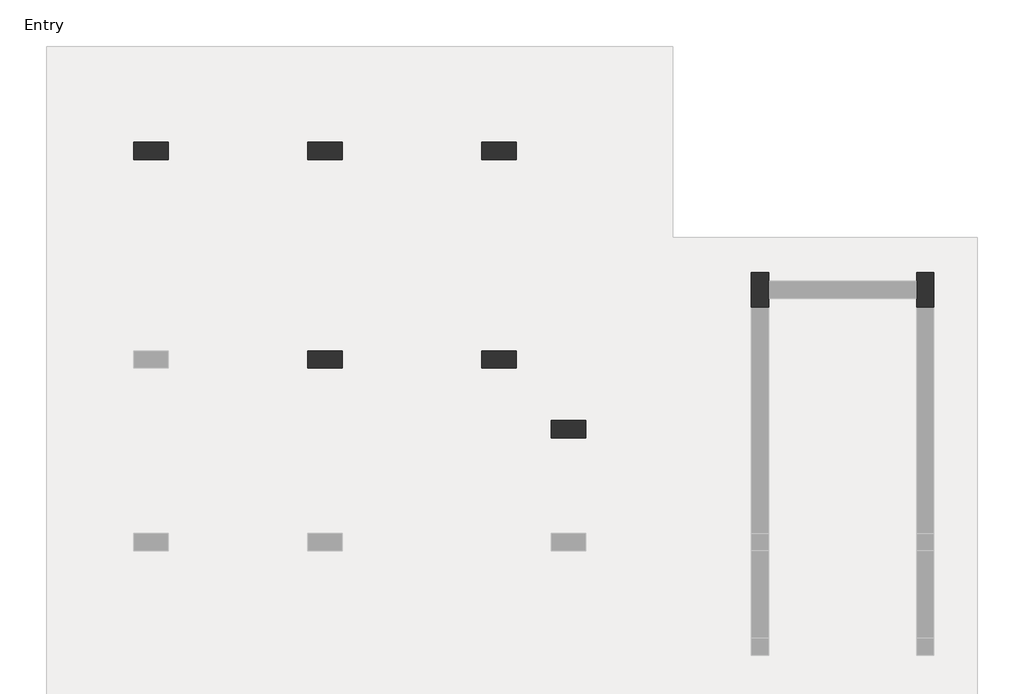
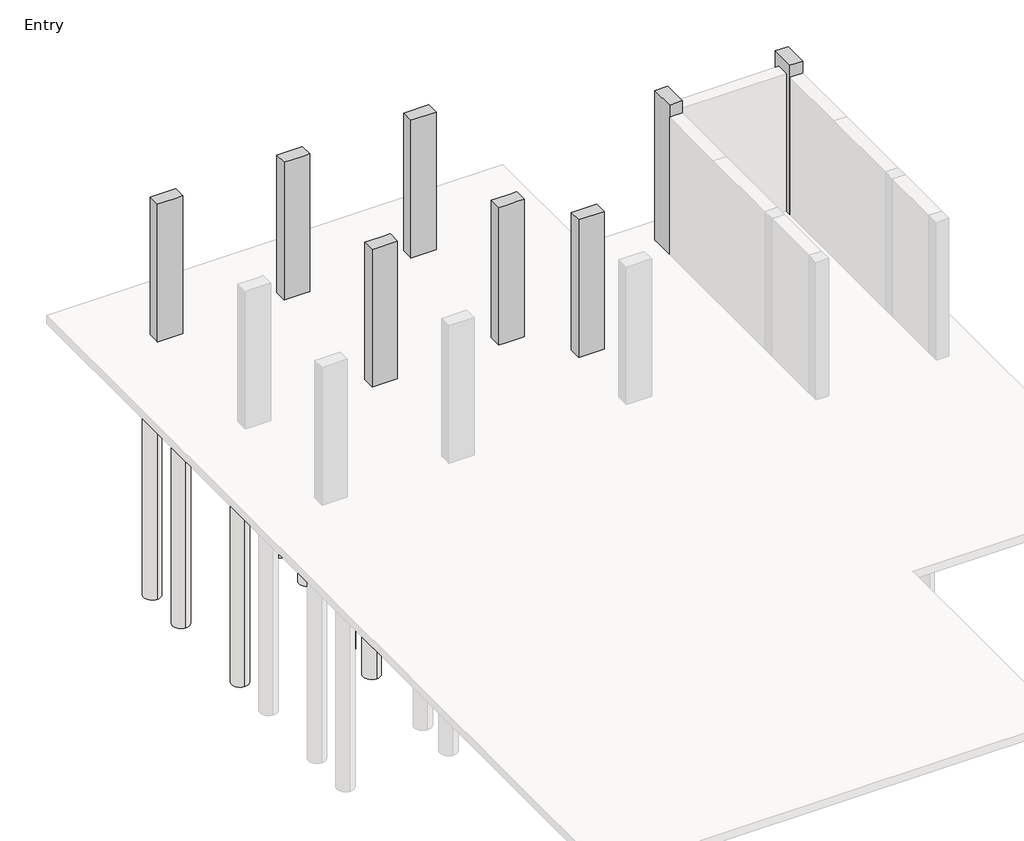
# One storey, part 3 of 3: 31 slabs, 16 columns, 3 footings.
"""IFC4 building model written with IfcOpenShell, lengths in millimetres."""

import ifcopenshell
import ifcopenshell.guid

model = None  # the IFC model being written
_history = None  # IfcOwnerHistory: only IFC2X3 demands one
_inside = {}  # id of a spatial element -> (the spatial element, [elements in it])
_under = {}  # id of a project, library or spatial element -> (it, [spatial elements below it])
_declared = {}  # id of a project -> (the project, [libraries it declares])
_typed = {}  # id of a type object -> (the type object, [elements of that type])
_made_of = {}  # id of a material, layer set ... -> (it, [elements and type objects made of it])


def new_model(schema):
    """Start an empty IFC model of exactly this schema.

    Asked for "IFC4X3", IfcOpenShell would pick the latest addendum, in which some entities
    have other attributes; the version numbers below select the first issue.
    IFC2X3 requires an IfcOwnerHistory on every rooted entity: one is made here for all.
    """
    global model, _history
    if schema == "IFC4X3":
        model = ifcopenshell.file(schema_version=(4, 3, 0, 0))
    else:
        model = ifcopenshell.file(schema=schema)
    _inside.clear()
    _under.clear()
    _declared.clear()
    _typed.clear()
    _made_of.clear()
    _history = None
    if model.schema == "IFC2X3":
        org = make("IfcOrganization", Name="unknown")
        user = make(
            "IfcPersonAndOrganization",
            ThePerson=make("IfcPerson", FamilyName="unknown"),
            TheOrganization=org,
        )
        app = make(
            "IfcApplication",
            ApplicationDeveloper=org,
            Version="unknown",
            ApplicationFullName="unknown",
            ApplicationIdentifier="unknown",
        )
        _history = make(
            "IfcOwnerHistory",
            OwningUser=user,
            OwningApplication=app,
            ChangeAction="ADDED",
            CreationDate=0,
        )
    return model


def make(cls, **values):
    """One entity of the class cls with the attributes given. An attribute that is None is left unset."""
    return model.create_entity(
        cls, **{name: value for name, value in values.items() if value is not None}
    )


def rooted(cls, **values):
    """An entity with a GlobalId (a new one), such as an element, a storey or a relation."""
    return make(cls, GlobalId=ifcopenshell.guid.new(), OwnerHistory=_history, **values)


def si_unit(unit_type, name, prefix=None):
    """IfcSIUnit, for example si_unit("LENGTHUNIT", "METRE", prefix="MILLI")."""
    return make("IfcSIUnit", UnitType=unit_type, Prefix=prefix, Name=name)


def assignment(units):
    """IfcUnitAssignment: the units of a project."""
    return None if units is None else make("IfcUnitAssignment", Units=units)


def point(xyz):
    """IfcCartesianPoint."""
    return None if xyz is None else make("IfcCartesianPoint", Coordinates=xyz)


def direction(xyz):
    """IfcDirection."""
    return None if xyz is None else make("IfcDirection", DirectionRatios=xyz)


def frame(location, z_axis=None, x_axis=None):
    """IfcAxis2Placement3D, a coordinate frame: its origin and axes. An axis left out is left unset."""
    return make(
        "IfcAxis2Placement3D",
        Location=point(location),
        Axis=direction(z_axis),
        RefDirection=direction(x_axis),
    )


def frame_2d(location, x_axis=None):
    """IfcAxis2Placement2D, a coordinate frame in the plane: its origin and x axis."""
    return make(
        "IfcAxis2Placement2D", Location=point(location), RefDirection=direction(x_axis)
    )


def origin():
    """The frame at (0, 0, 0) with its axes left unset."""
    return frame((0.0, 0.0, 0.0))


def place(relative_to, where):
    """IfcLocalPlacement: puts the frame where relative to a parent placement (None: the world)."""
    return make(
        "IfcLocalPlacement", PlacementRelTo=relative_to, RelativePlacement=where
    )


def context(
    kind, dimensions, precision=None, world=None, true_north=None, identifier=None
):
    """IfcGeometricRepresentationContext, for example the 3D "Model" context."""
    return make(
        "IfcGeometricRepresentationContext",
        ContextIdentifier=identifier,
        ContextType=kind,
        CoordinateSpaceDimension=dimensions,
        Precision=precision,
        WorldCoordinateSystem=world,
        TrueNorth=true_north,
    )


def project(units=None, contexts=None):
    """IfcProject with its units and contexts."""
    return rooted(
        "IfcProject",
        Name="project",
        RepresentationContexts=contexts,
        UnitsInContext=assignment(units),
    )


def spatial(cls, under=None, at=None, **own):
    """A site, building, storey or space (cls), placed at a placement, below another one or the project."""
    s = rooted(cls, ObjectPlacement=at, **own)
    if under is not None:
        _under.setdefault(under.id(), (under, []))[1].append(s)
    return s


def polyline(points):
    """IfcPolyline through the points."""
    return make("IfcPolyline", Points=[point(p) for p in points])


def circle_curve(where, radius):
    """IfcCircle in the frame where."""
    return make("IfcCircle", Position=where, Radius=radius)


def trimmed(basis, trim1, trim2, sense, master):
    """IfcTrimmedCurve: the piece of a basis curve between two trims."""
    return make(
        "IfcTrimmedCurve",
        BasisCurve=basis,
        Trim1=trim1,
        Trim2=trim2,
        SenseAgreement=sense,
        MasterRepresentation=master,
    )


def segment(curve, same_sense, transition):
    """IfcCompositeCurveSegment."""
    return make(
        "IfcCompositeCurveSegment",
        Transition=transition,
        SameSense=same_sense,
        ParentCurve=curve,
    )


def composite_curve(segments, self_intersect=None):
    """IfcCompositeCurve: segments joined end to end."""
    return make("IfcCompositeCurve", Segments=segments, SelfIntersect=self_intersect)


def outline(outer, holes=None, kind="AREA"):
    """IfcArbitraryClosedProfileDef: a profile drawn as a closed curve; with holes, ...WithVoids."""
    if holes is None:
        return make("IfcArbitraryClosedProfileDef", ProfileType=kind, OuterCurve=outer)
    return make(
        "IfcArbitraryProfileDefWithVoids",
        ProfileType=kind,
        OuterCurve=outer,
        InnerCurves=holes,
    )


def extrude(swept, where, along, depth):
    """IfcExtrudedAreaSolid: the profile swept, set in the frame where, extruded along a direction by depth."""
    return make(
        "IfcExtrudedAreaSolid",
        SweptArea=swept,
        Position=where,
        ExtrudedDirection=direction(along),
        Depth=depth,
    )


def faces_of(points, faces, orient=None, outer=None):
    """IfcFace entities. A face is a list of loops; a loop is a list of indices into points, from 0.

    orient and outer hold one flag for each loop. By default every Orientation is true, the
    first loop of a face is its IfcFaceOuterBound and the others are IfcFaceBound.
    """
    made = []
    for i, loops in enumerate(faces):
        bounds = []
        for j, loop in enumerate(loops):
            is_outer = j == 0 if outer is None else outer[i][j]
            bounds.append(
                make(
                    "IfcFaceOuterBound" if is_outer else "IfcFaceBound",
                    Bound=make("IfcPolyLoop", Polygon=[points[k] for k in loop]),
                    Orientation=True if orient is None else orient[i][j],
                )
            )
        made.append(make("IfcFace", Bounds=bounds))
    return made


def faceted_brep(points, faces, orient=None, outer=None, voids=None):
    """IfcFacetedBrep: a solid bounded by flat faces; with voids (closed shells), ...WithVoids."""
    shared = [point(p) for p in points]
    hull = make("IfcClosedShell", CfsFaces=faces_of(shared, faces, orient, outer))
    if voids is None:
        return make("IfcFacetedBrep", Outer=hull)
    return make(
        "IfcFacetedBrepWithVoids",
        Outer=hull,
        Voids=[
            make(cls, CfsFaces=faces_of(shared, fs, o, b)) for cls, fs, o, b in voids
        ],
    )


def shape(context_of_items, identifier, shape_type, items):
    """IfcShapeRepresentation: the items that make up one representation, for example the "Body"."""
    return make(
        "IfcShapeRepresentation",
        ContextOfItems=context_of_items,
        RepresentationIdentifier=identifier,
        RepresentationType=shape_type,
        Items=items,
    )


def made_of(thing, what):
    """Note that an element or type object is made of a material, layer set ...; save() writes the relation."""
    if what is not None:
        _made_of.setdefault(what.id(), (what, []))[1].append(thing)
    return thing


def element(
    cls,
    number,
    at=None,
    inside=None,
    cuts=None,
    type_object=None,
    material=None,
    context=None,
    identifier="Body",
    shape_type=None,
    held_by="IfcProductDefinitionShape",
    body=None,
    shapes=None,
    **own,
):
    """One element of the class cls, such as IfcWall. Its Tag is "e" and its number.

    at: its placement. inside: the storey or other place that contains it. cuts: it is an
    opening in that element (IfcRelVoidsElement). A single representation is given by context,
    identifier, shape_type and body (its items); several are given by shapes. held_by: the class
    of the entity that holds the representations. save() writes the other relations.
    """
    e = rooted(cls, Tag="e%d" % number, ObjectPlacement=at, **own)
    if body is not None:
        shapes = [shape(context, identifier, shape_type, body)]
    if shapes is not None:
        e.Representation = make(held_by, Representations=shapes)
    if inside is not None:
        _inside.setdefault(inside.id(), (inside, []))[1].append(e)
    if cuts is not None:
        rooted(
            "IfcRelVoidsElement", RelatingBuildingElement=cuts, RelatedOpeningElement=e
        )
    if type_object is not None:
        _typed.setdefault(type_object.id(), (type_object, []))[1].append(e)
    return made_of(e, material)


def aggregate(whole, parts):
    """IfcRelAggregates: a whole, such as a stair, and the parts it consists of."""
    return rooted("IfcRelAggregates", RelatingObject=whole, RelatedObjects=parts)


def save(model, path):
    """Write the relations noted so far, then the file.

    IfcRelAggregates (storeys below a building ...), IfcRelContainedInSpatialStructure (elements
    in a storey), IfcRelDefinesByType, IfcRelAssociatesMaterial and IfcRelDeclares: one each for
    every whole, place, type object, material and project.
    """
    for whole, parts in _under.values():
        aggregate(whole, parts)
    for where, things in _inside.values():
        rooted(
            "IfcRelContainedInSpatialStructure",
            RelatedElements=things,
            RelatingStructure=where,
        )
    for kind, things in _typed.values():
        rooted("IfcRelDefinesByType", RelatedObjects=things, RelatingType=kind)
    for what, things in _made_of.values():
        rooted("IfcRelAssociatesMaterial", RelatedObjects=things, RelatingMaterial=what)
    for by, libraries in _declared.values():
        rooted("IfcRelDeclares", RelatingContext=by, RelatedDefinitions=libraries)
    model.write(path)


model = new_model("IFC4")

# Units and contexts
model_context = context("Model", 3, world=origin())
ifc_project = project(units=[si_unit("LENGTHUNIT", "METRE", prefix="MILLI")], contexts=[model_context])

# Site, building, storey
site = spatial("IfcSite", under=ifc_project)
building = spatial("IfcBuilding", under=site)
storey = spatial("IfcBuildingStorey", under=building, Name="Entry", Elevation=0.0)

# Columns
placement = place(None, origin())
element("IfcColumn", 1, ObjectType="Concrete-Rectangular-Column : 12 x 24", at=placement, inside=storey, context=model_context, shape_type="Brep", body=[
    faceted_brep([(-15677.5554735, 14646.9867088, 0.0), (-15067.9554735, 14646.9867088, 0.0), (-15067.9554735, 14342.1867088, 0.0), (-15677.5554735, 14342.1867088, 0.0), (-15677.5554735, 14646.9867088, 3505.2), (-15067.9554735, 14646.9867088, 3505.2), (-15067.9554735, 14646.9867088, 2895.6), (-15067.9554735, 14342.1867088, 3505.2), (-15067.9554735, 14342.1867088, 2895.6), (-15220.3554735, 14342.1867088, 3505.2), (-15525.1554735, 14342.1867088, 3505.2), (-15677.5554735, 14342.1867088, 3505.2)], [[[0, 1, 2, 3]], [[4, 5, 6, 1, 0]], [[5, 7, 8, 2, 1, 6]], [[7, 9, 10, 11, 3, 2, 8]], [[11, 4, 0, 3]], [[4, 11, 10, 9, 7, 5]]]),
])
element("IfcColumn", 2, ObjectType="Concrete-Rectangular-Column : 12 x 24", at=placement, inside=storey, context=model_context, shape_type="Brep", body=[
    faceted_brep([(-12629.5554735, 14646.9867088, 0.0), (-12019.9554735, 14646.9867088, 0.0), (-12019.9554735, 14342.1867088, 0.0), (-12629.5554735, 14342.1867088, 0.0), (-12629.5554735, 14646.9867088, 3505.2), (-12019.9554735, 14646.9867088, 3505.2), (-12019.9554735, 14646.9867088, 2895.6), (-12629.5554735, 14646.9867088, 2895.6), (-12019.9554735, 14342.1867088, 3505.2), (-12019.9554735, 14342.1867088, 2895.6), (-12172.3554735, 14342.1867088, 3505.2), (-12477.1554735, 14342.1867088, 3505.2), (-12629.5554735, 14342.1867088, 3505.2), (-12629.5554735, 14342.1867088, 2895.6)], [[[0, 1, 2, 3]], [[4, 5, 6, 1, 0, 7]], [[5, 8, 9, 2, 1, 6]], [[8, 10, 11, 12, 13, 3, 2, 9]], [[12, 4, 7, 0, 3, 13]], [[4, 12, 11, 10, 8, 5]]]),
])
element("IfcColumn", 3, ObjectType="Concrete-Rectangular-Column : 12 x 24", at=placement, inside=storey, context=model_context, shape_type="Brep", body=[
    faceted_brep([(-9581.5554735, 14646.9867088, 0.0), (-8971.9554735, 14646.9867088, 0.0), (-8971.9554735, 14342.1867088, 0.0), (-9581.5554735, 14342.1867088, 0.0), (-9581.5554735, 14646.9867088, 3505.2), (-8971.9554735, 14646.9867088, 3505.2), (-9581.5554735, 14646.9867088, 2895.6), (-8971.9554735, 14342.1867088, 3505.2), (-9124.3554735, 14342.1867088, 3505.2), (-9429.1554735, 14342.1867088, 3505.2), (-9581.5554735, 14342.1867088, 3505.2), (-9581.5554735, 14342.1867088, 2895.6)], [[[0, 1, 2, 3]], [[4, 5, 1, 0, 6]], [[5, 7, 2, 1]], [[7, 8, 9, 10, 11, 3, 2]], [[10, 4, 6, 0, 3, 11]], [[4, 10, 9, 8, 7, 5]]]),
])
element("IfcColumn", 4, ObjectType="Concrete-Rectangular-Column : 12 x 24", at=placement, inside=storey, context=model_context, shape_type="Brep", body=[
    faceted_brep([(-12629.5554735, 10989.3867088, 0.0), (-12019.9554735, 10989.3867088, 0.0), (-12019.9554735, 10684.5867088, 0.0), (-12629.5554735, 10684.5867088, 0.0), (-12629.5554735, 10989.3867088, 3505.2), (-12477.1554735, 10989.3867088, 3505.2), (-12172.3554735, 10989.3867088, 3505.2), (-12019.9554735, 10989.3867088, 3505.2), (-12019.9554735, 10989.3867088, 2895.6), (-12629.5554735, 10989.3867088, 2895.6), (-12019.9554735, 10684.5867088, 3505.2), (-12019.9554735, 10684.5867088, 2895.6), (-12172.3554735, 10684.5867088, 3505.2), (-12477.1554735, 10684.5867088, 3505.2), (-12629.5554735, 10684.5867088, 3505.2), (-12629.5554735, 10684.5867088, 2895.6)], [[[0, 1, 2, 3]], [[4, 5, 6, 7, 8, 1, 0, 9]], [[7, 10, 11, 2, 1, 8]], [[10, 12, 13, 14, 15, 3, 2, 11]], [[14, 4, 9, 0, 3, 15]], [[4, 14, 13, 12, 10, 7, 6, 5]]]),
])
element("IfcColumn", 5, ObjectType="Concrete-Rectangular-Column : 12 x 24", at=placement, inside=storey, context=model_context, shape_type="Brep", body=[
    faceted_brep([(-9581.5554735, 10989.3867088, 0.0), (-8971.9554735, 10989.3867088, 0.0), (-8971.9554735, 10684.5867088, 0.0), (-9581.5554735, 10684.5867088, 0.0), (-9581.5554735, 10989.3867088, 3505.2), (-9429.1554735, 10989.3867088, 3505.2), (-9124.3554735, 10989.3867088, 3505.2), (-8971.9554735, 10989.3867088, 3505.2), (-9581.5554735, 10989.3867088, 2895.6), (-8971.9554735, 10684.5867088, 3505.2), (-9124.3554735, 10684.5867088, 3505.2), (-9429.1554735, 10684.5867088, 3505.2), (-9581.5554735, 10684.5867088, 3505.2), (-9581.5554735, 10684.5867088, 2895.6)], [[[0, 1, 2, 3]], [[4, 5, 6, 7, 1, 0, 8]], [[7, 9, 2, 1]], [[9, 10, 11, 12, 13, 3, 2]], [[12, 4, 8, 0, 3, 13]], [[4, 12, 11, 10, 9, 7, 6, 5]]]),
])
element("IfcColumn", 6, ObjectType="Concrete-Rectangular-Column : 12 x 24", at=placement, inside=storey, context=model_context, shape_type="Brep", body=[
    faceted_brep([(-8362.3554735, 9770.1867088, 0.0), (-7752.7554735, 9770.1867088, 0.0), (-7752.7554735, 9465.3867088, 0.0), (-8362.3554735, 9465.3867088, 0.0), (-8362.3554735, 9770.1867088, 3505.2), (-7752.7554735, 9770.1867088, 3505.2), (-8362.3554735, 9770.1867088, 2895.6), (-7752.7554735, 9465.3867088, 3505.2), (-7905.1554735, 9465.3867088, 3505.2), (-8209.9554735, 9465.3867088, 3505.2), (-8362.3554735, 9465.3867088, 3505.2), (-8362.3554735, 9465.3867088, 2895.6)], [[[0, 1, 2, 3]], [[4, 5, 1, 0, 6]], [[5, 7, 2, 1]], [[7, 8, 9, 10, 11, 3, 2]], [[10, 4, 6, 0, 3, 11]], [[4, 10, 9, 8, 7, 5]]]),
])
element("IfcColumn", 7, ObjectType="Concrete-Rectangular-Column : 12 x 24", at=placement, inside=storey, context=model_context, shape_type="Brep", body=[
    faceted_brep([(-4552.3554735, 12360.9867088, 0.0), (-4552.3554735, 12208.5867088, 0.0), (-4552.3554735, 11903.7867088, 0.0), (-4552.3554735, 11751.3867088, 0.0), (-4857.1554735, 11751.3867088, 0.0), (-4857.1554735, 12360.9867088, 0.0), (-4552.3554735, 12360.9867088, 3810.0), (-4552.3554735, 11751.3867088, 3810.0), (-4552.3554735, 11751.3867088, 3505.2), (-4857.1554735, 11751.3867088, 3810.0), (-4857.1554735, 11751.3867088, 3505.2), (-4857.1554735, 12360.9867088, 3810.0)], [[[0, 1, 2, 3, 4, 5]], [[6, 7, 8, 3, 2, 1, 0]], [[7, 9, 10, 4, 3, 8]], [[9, 11, 5, 4, 10]], [[11, 6, 0, 5]], [[6, 11, 9, 7]]]),
])
element("IfcColumn", 8, ObjectType="Concrete-Rectangular-Column : 12 x 24", at=placement, inside=storey, context=model_context, shape_type="Brep", body=[
    faceted_brep([(-1656.7554735, 12360.9867088, 0.0), (-1656.7554735, 11751.3867088, 0.0), (-1961.5554735, 11751.3867088, 0.0), (-1961.5554735, 11903.7867088, 0.0), (-1961.5554735, 12208.5867088, 0.0), (-1961.5554735, 12360.9867088, 0.0), (-1656.7554735, 12360.9867088, 3810.0), (-1656.7554735, 11751.3867088, 3810.0), (-1656.7554735, 11751.3867088, 3505.2), (-1961.5554735, 11751.3867088, 3810.0), (-1961.5554735, 11751.3867088, 3505.2), (-1961.5554735, 12360.9867088, 3810.0)], [[[0, 1, 2, 3, 4, 5]], [[6, 7, 8, 1, 0]], [[7, 9, 10, 2, 1, 8]], [[9, 11, 5, 4, 3, 2, 10]], [[11, 6, 0, 5]], [[6, 11, 9, 7]]]),
])
element("IfcColumn", 9, ObjectType="Concrete-Rectangular-Column : 12 x 24", at=placement, inside=storey, context=model_context, shape_type="Brep", body=[
    faceted_brep([(-15677.5554735, 14646.9867088, 0.0), (-15067.9554735, 14646.9867088, 0.0), (-15067.9554735, 14342.1867088, 0.0), (-15677.5554735, 14342.1867088, 0.0), (-15677.5554735, 14646.9867088, 3505.2), (-15067.9554735, 14646.9867088, 3505.2), (-15067.9554735, 14646.9867088, 2895.6), (-15067.9554735, 14342.1867088, 3505.2), (-15067.9554735, 14342.1867088, 2895.6), (-15220.3554735, 14342.1867088, 3505.2), (-15525.1554735, 14342.1867088, 3505.2), (-15677.5554735, 14342.1867088, 3505.2)], [[[0, 1, 2, 3]], [[4, 5, 6, 1, 0]], [[5, 7, 8, 2, 1, 6]], [[7, 9, 10, 11, 3, 2, 8]], [[11, 4, 0, 3]], [[4, 11, 10, 9, 7, 5]]]),
])
element("IfcColumn", 10, ObjectType="Concrete-Rectangular-Column : 12 x 24", at=placement, inside=storey, context=model_context, shape_type="Brep", body=[
    faceted_brep([(-12629.5554735, 14646.9867088, 0.0), (-12019.9554735, 14646.9867088, 0.0), (-12019.9554735, 14342.1867088, 0.0), (-12629.5554735, 14342.1867088, 0.0), (-12629.5554735, 14646.9867088, 3505.2), (-12019.9554735, 14646.9867088, 3505.2), (-12019.9554735, 14646.9867088, 2895.6), (-12629.5554735, 14646.9867088, 2895.6), (-12019.9554735, 14342.1867088, 3505.2), (-12019.9554735, 14342.1867088, 2895.6), (-12172.3554735, 14342.1867088, 3505.2), (-12477.1554735, 14342.1867088, 3505.2), (-12629.5554735, 14342.1867088, 3505.2), (-12629.5554735, 14342.1867088, 2895.6)], [[[0, 1, 2, 3]], [[4, 5, 6, 1, 0, 7]], [[5, 8, 9, 2, 1, 6]], [[8, 10, 11, 12, 13, 3, 2, 9]], [[12, 4, 7, 0, 3, 13]], [[4, 12, 11, 10, 8, 5]]]),
])
element("IfcColumn", 11, ObjectType="Concrete-Rectangular-Column : 12 x 24", at=placement, inside=storey, context=model_context, shape_type="Brep", body=[
    faceted_brep([(-9581.5554735, 14646.9867088, 0.0), (-8971.9554735, 14646.9867088, 0.0), (-8971.9554735, 14342.1867088, 0.0), (-9581.5554735, 14342.1867088, 0.0), (-9581.5554735, 14646.9867088, 3505.2), (-8971.9554735, 14646.9867088, 3505.2), (-9581.5554735, 14646.9867088, 2895.6), (-8971.9554735, 14342.1867088, 3505.2), (-9124.3554735, 14342.1867088, 3505.2), (-9429.1554735, 14342.1867088, 3505.2), (-9581.5554735, 14342.1867088, 3505.2), (-9581.5554735, 14342.1867088, 2895.6)], [[[0, 1, 2, 3]], [[4, 5, 1, 0, 6]], [[5, 7, 2, 1]], [[7, 8, 9, 10, 11, 3, 2]], [[10, 4, 6, 0, 3, 11]], [[4, 10, 9, 8, 7, 5]]]),
])
element("IfcColumn", 12, ObjectType="Concrete-Rectangular-Column : 12 x 24", at=placement, inside=storey, context=model_context, shape_type="Brep", body=[
    faceted_brep([(-15677.5554735, 10989.3867088, 0.0), (-15067.9554735, 10989.3867088, 0.0), (-15067.9554735, 10684.5867088, 0.0), (-15677.5554735, 10684.5867088, 0.0), (-15677.5554735, 10989.3867088, 3505.2), (-15525.1554735, 10989.3867088, 3505.2), (-15220.3554735, 10989.3867088, 3505.2), (-15067.9554735, 10989.3867088, 3505.2), (-15067.9554735, 10989.3867088, 2895.6), (-15067.9554735, 10684.5867088, 3505.2), (-15067.9554735, 10684.5867088, 2895.6), (-15220.3554735, 10684.5867088, 3505.2), (-15525.1554735, 10684.5867088, 3505.2), (-15677.5554735, 10684.5867088, 3505.2)], [[[0, 1, 2, 3]], [[4, 5, 6, 7, 8, 1, 0]], [[7, 9, 10, 2, 1, 8]], [[9, 11, 12, 13, 3, 2, 10]], [[13, 4, 0, 3]], [[4, 13, 12, 11, 9, 7, 6, 5]]]),
])
element("IfcColumn", 13, ObjectType="Concrete-Rectangular-Column : 12 x 24", at=placement, inside=storey, context=model_context, shape_type="Brep", body=[
    faceted_brep([(-12629.5554735, 10989.3867088, 0.0), (-12019.9554735, 10989.3867088, 0.0), (-12019.9554735, 10684.5867088, 0.0), (-12629.5554735, 10684.5867088, 0.0), (-12629.5554735, 10989.3867088, 3505.2), (-12477.1554735, 10989.3867088, 3505.2), (-12172.3554735, 10989.3867088, 3505.2), (-12019.9554735, 10989.3867088, 3505.2), (-12019.9554735, 10989.3867088, 2895.6), (-12629.5554735, 10989.3867088, 2895.6), (-12019.9554735, 10684.5867088, 3505.2), (-12019.9554735, 10684.5867088, 2895.6), (-12172.3554735, 10684.5867088, 3505.2), (-12477.1554735, 10684.5867088, 3505.2), (-12629.5554735, 10684.5867088, 3505.2), (-12629.5554735, 10684.5867088, 2895.6)], [[[0, 1, 2, 3]], [[4, 5, 6, 7, 8, 1, 0, 9]], [[7, 10, 11, 2, 1, 8]], [[10, 12, 13, 14, 15, 3, 2, 11]], [[14, 4, 9, 0, 3, 15]], [[4, 14, 13, 12, 10, 7, 6, 5]]]),
])
element("IfcColumn", 14, ObjectType="Concrete-Rectangular-Column : 12 x 24", at=placement, inside=storey, context=model_context, shape_type="Brep", body=[
    faceted_brep([(-9581.5554735, 10989.3867088, 0.0), (-8971.9554735, 10989.3867088, 0.0), (-8971.9554735, 10684.5867088, 0.0), (-9581.5554735, 10684.5867088, 0.0), (-9581.5554735, 10989.3867088, 3505.2), (-9429.1554735, 10989.3867088, 3505.2), (-9124.3554735, 10989.3867088, 3505.2), (-8971.9554735, 10989.3867088, 3505.2), (-9581.5554735, 10989.3867088, 2895.6), (-8971.9554735, 10684.5867088, 3505.2), (-9124.3554735, 10684.5867088, 3505.2), (-9429.1554735, 10684.5867088, 3505.2), (-9581.5554735, 10684.5867088, 3505.2), (-9581.5554735, 10684.5867088, 2895.6)], [[[0, 1, 2, 3]], [[4, 5, 6, 7, 1, 0, 8]], [[7, 9, 2, 1]], [[9, 10, 11, 12, 13, 3, 2]], [[12, 4, 8, 0, 3, 13]], [[4, 12, 11, 10, 9, 7, 6, 5]]]),
])
element("IfcColumn", 15, ObjectType="Concrete-Rectangular-Column : 12 x 24", at=placement, inside=storey, context=model_context, shape_type="Brep", body=[
    faceted_brep([(-8362.3554735, 9770.1867088, 0.0), (-7752.7554735, 9770.1867088, 0.0), (-7752.7554735, 9465.3867088, 0.0), (-8362.3554735, 9465.3867088, 0.0), (-8362.3554735, 9770.1867088, 3505.2), (-7752.7554735, 9770.1867088, 3505.2), (-8362.3554735, 9770.1867088, 2895.6), (-7752.7554735, 9465.3867088, 3505.2), (-7905.1554735, 9465.3867088, 3505.2), (-8209.9554735, 9465.3867088, 3505.2), (-8362.3554735, 9465.3867088, 3505.2), (-8362.3554735, 9465.3867088, 2895.6)], [[[0, 1, 2, 3]], [[4, 5, 1, 0, 6]], [[5, 7, 2, 1]], [[7, 8, 9, 10, 11, 3, 2]], [[10, 4, 6, 0, 3, 11]], [[4, 10, 9, 8, 7, 5]]]),
])
element("IfcColumn", 16, ObjectType="Concrete-Rectangular-Column : 12 x 24", at=placement, inside=storey, context=model_context, shape_type="Brep", body=[
    faceted_brep([(-4552.3554735, 12360.9867088, 0.0), (-4552.3554735, 12208.5867088, 0.0), (-4552.3554735, 11903.7867088, 0.0), (-4552.3554735, 11751.3867088, 0.0), (-4857.1554735, 11751.3867088, 0.0), (-4857.1554735, 12360.9867088, 0.0), (-4552.3554735, 12360.9867088, 3810.0), (-4552.3554735, 11751.3867088, 3810.0), (-4552.3554735, 11751.3867088, 3505.2), (-4857.1554735, 11751.3867088, 3810.0), (-4857.1554735, 11751.3867088, 3505.2), (-4857.1554735, 12360.9867088, 3810.0)], [[[0, 1, 2, 3, 4, 5]], [[6, 7, 8, 3, 2, 1, 0]], [[7, 9, 10, 4, 3, 8]], [[9, 11, 5, 4, 10]], [[11, 6, 0, 5]], [[6, 11, 9, 7]]]),
])

# Footings
element("IfcFooting", 17, ObjectType="Bearing Footing - 36\" x 12\"", at=placement, inside=storey, context=model_context, shape_type="Brep", body=[
    faceted_brep([(-4552.3554735, 12513.3867088, -304.8), (-4552.3554735, 12462.5867088, -304.8), (-4552.3554735, 12462.5867088, -203.2), (-4552.3554735, 12513.3867088, -203.2), (-4552.3554735, 11649.7867088, -304.8), (-4552.3554735, 11598.9867088, -304.8), (-4552.3554735, 11598.9867088, -203.2), (-4552.3554735, 11649.7867088, -203.2), (-1961.5554735, 12462.5867088, -304.8), (-1961.5554735, 12513.3867088, -304.8), (-1961.5554735, 12513.3867088, -203.2), (-1961.5554735, 12462.5867088, -203.2), (-1961.5554735, 11598.9867088, -304.8), (-1961.5554735, 11649.7867088, -304.8), (-1961.5554735, 11649.7867088, -203.2), (-1961.5554735, 11598.9867088, -203.2), (-2710.8554735, 12462.5867088, -304.8), (-2710.8554735, 11649.7867088, -304.8), (-2266.3554735, 11598.9867088, -304.8), (-4247.5554735, 11598.9867088, -304.8), (-3803.0554735, 11649.7867088, -304.8), (-3803.0554735, 12462.5867088, -304.8), (-2266.3554735, 11598.9867088, -203.2), (-4247.5554735, 11598.9867088, -203.2), (-3803.0554735, 12462.5867088, -203.2), (-3803.0554735, 11649.7867088, -203.2), (-2710.8554735, 12462.5867088, -203.2), (-2710.8554735, 11649.7867088, -203.2)], [[[0, 1, 2, 3]], [[4, 5, 6, 7]], [[8, 9, 10, 11]], [[12, 13, 14, 15]], [[9, 0, 3, 10]], [[0, 9, 8, 16, 17, 13, 12, 18, 19, 5, 4, 20, 21, 1]], [[5, 19, 18, 12, 15, 22, 23, 6]], [[1, 21, 24, 2]], [[20, 4, 7, 25]], [[21, 20, 25, 24]], [[16, 8, 11, 26]], [[17, 16, 26, 27]], [[13, 17, 27, 14]], [[3, 2, 24, 25, 7, 6, 23, 22, 15, 14, 27, 26, 11, 10]]]),
])
element("IfcFooting", 18, ObjectType="Bearing Footing - 36\" x 12\"", at=placement, inside=storey, context=model_context, shape_type="SweptSolid", body=[
    extrude(outline(polyline([(-1351.9554735, 11649.7867088), (-1351.9554735, 7788.9867088), (-1402.7554735, 7788.9867088), (-1402.7554735, 8538.2867088), (-2215.5554735, 8538.2867088), (-2215.5554735, 7788.9867088), (-2266.3554735, 7788.9867088), (-2266.3554735, 11598.9867088), (-1961.5554735, 11598.9867088), (-1961.5554735, 11649.7867088), (-1351.9554735, 11649.7867088)])), frame((0.0, 0.0, -304.8), z_axis=(0.0, 0.0, 1.0), x_axis=(1.0, 0.0, 0.0)), (0.0, 0.0, 1.0), 101.6),
])
element("IfcFooting", 19, ObjectType="Bearing Footing - 36\" x 12\"", at=placement, inside=storey, context=model_context, shape_type="SweptSolid", body=[
    extrude(outline(polyline([(-5161.9554735, 7788.9867088), (-5161.9554735, 11649.7867088), (-4552.3554735, 11649.7867088), (-4552.3554735, 11598.9867088), (-4247.5554735, 11598.9867088), (-4247.5554735, 7788.9867088), (-4298.3554735, 7788.9867088), (-4298.3554735, 8538.2867088), (-5111.1554735, 8538.2867088), (-5111.1554735, 7788.9867088), (-5161.9554735, 7788.9867088)])), frame((0.0, 0.0, -304.8), z_axis=(0.0, 0.0, 1.0), x_axis=(1.0, 0.0, 0.0)), (0.0, 0.0, 1.0), 101.6),
])

# Slabs
element("IfcSlab", 20, ObjectType="Pile Cap-2 Pile : 31\"x61\"x35\"", at=placement, inside=storey, context=model_context, shape_type="SweptSolid", body=[
    extrude(outline(polyline([(-15779.1554735, 15396.2867088), (-14966.3554735, 15396.2867088), (-14966.3554735, 13592.8867088), (-15779.1554735, 13592.8867088), (-15779.1554735, 15396.2867088)])), frame((0.0, 0.0, -889.0), z_axis=(0.0, 0.0, 1.0), x_axis=(1.0, 0.0, 0.0)), (0.0, 0.0, 1.0), 685.8),
])
element("IfcSlab", 21, ObjectType="Pile Cap-2 Pile : 31\"x61\"x35\"", at=placement, inside=storey, context=model_context, shape_type="SweptSolid", body=[
    extrude(outline(polyline([(-12731.1554735, 15396.2867088), (-11918.3554735, 15396.2867088), (-11918.3554735, 13592.8867088), (-12731.1554735, 13592.8867088), (-12731.1554735, 15396.2867088)])), frame((0.0, 0.0, -889.0), z_axis=(0.0, 0.0, 1.0), x_axis=(1.0, 0.0, 0.0)), (0.0, 0.0, 1.0), 685.8),
])
element("IfcSlab", 22, ObjectType="Pile Cap-2 Pile : 31\"x61\"x35\"", at=placement, inside=storey, context=model_context, shape_type="SweptSolid", body=[
    extrude(outline(polyline([(-9683.1554735, 15396.2867088), (-8870.3554735, 15396.2867088), (-8870.3554735, 13592.8867088), (-9683.1554735, 13592.8867088), (-9683.1554735, 15396.2867088)])), frame((0.0, 0.0, -889.0), z_axis=(0.0, 0.0, 1.0), x_axis=(1.0, 0.0, 0.0)), (0.0, 0.0, 1.0), 685.8),
])
element("IfcSlab", 23, ObjectType="Pile Cap-2 Pile : 31\"x61\"x35\"", at=placement, inside=storey, context=model_context, shape_type="SweptSolid", body=[
    extrude(outline(polyline([(-9683.1554735, 11738.6867088), (-8870.3554735, 11738.6867088), (-8870.3554735, 9935.2867088), (-9683.1554735, 9935.2867088), (-9683.1554735, 11738.6867088)])), frame((0.0, 0.0, -889.0), z_axis=(0.0, 0.0, 1.0), x_axis=(1.0, 0.0, 0.0)), (0.0, 0.0, 1.0), 685.8),
])
element("IfcSlab", 24, ObjectType="Pile Cap-2 Pile : 31\"x61\"x35\"", at=placement, inside=storey, context=model_context, shape_type="Brep", body=[
    faceted_brep([(-3803.0554735, 12462.5867088, -889.0), (-3803.0554735, 11649.7867088, -889.0), (-5606.4554735, 11649.7867088, -889.0), (-5606.4554735, 12462.5867088, -889.0), (-5606.4554735, 12462.5867088, -203.2), (-4552.3554735, 12462.5867088, -203.2), (-3803.0554735, 12462.5867088, -203.2), (-3803.0554735, 12462.5867088, -304.8), (-5606.4554735, 11649.7867088, -203.2), (-3803.0554735, 11649.7867088, -304.8), (-3803.0554735, 11649.7867088, -203.2), (-4552.3554735, 11649.7867088, -203.2), (-5161.9554735, 11649.7867088, -203.2)], [[[0, 1, 2, 3]], [[0, 3, 4, 5, 6, 7]], [[3, 2, 8, 4]], [[2, 1, 9, 10, 11, 12, 8]], [[1, 0, 7, 6, 10, 9]], [[6, 5, 4, 8, 12, 11, 10]]]),
])
element("IfcSlab", 25, ObjectType="Pile Cap-2 Pile : 31\"x61\"x35\"", at=placement, inside=storey, context=model_context, shape_type="Brep", body=[
    faceted_brep([(-907.4554735, 12462.5867088, -889.0), (-907.4554735, 11649.7867088, -889.0), (-2710.8554735, 11649.7867088, -889.0), (-2710.8554735, 12462.5867088, -889.0), (-2710.8554735, 12462.5867088, -304.8), (-2710.8554735, 12462.5867088, -203.2), (-1961.5554735, 12462.5867088, -203.2), (-907.4554735, 12462.5867088, -203.2), (-2710.8554735, 11649.7867088, -304.8), (-2710.8554735, 11649.7867088, -203.2), (-907.4554735, 11649.7867088, -203.2), (-1351.9554735, 11649.7867088, -203.2), (-1961.5554735, 11649.7867088, -203.2)], [[[0, 1, 2, 3]], [[0, 3, 4, 5, 6, 7]], [[3, 2, 8, 9, 5, 4]], [[2, 1, 10, 11, 12, 9, 8]], [[1, 0, 7, 10]], [[7, 6, 5, 9, 12, 11, 10]]]),
])
element("IfcSlab", 26, ObjectType="Pile Cap-2 Pile : 31\"x61\"x35\"", at=placement, inside=storey, context=model_context, shape_type="SweptSolid", body=[
    extrude(outline(polyline([(-8463.9554735, 10519.4867088), (-7651.1554735, 10519.4867088), (-7651.1554735, 8716.0867088), (-8463.9554735, 8716.0867088), (-8463.9554735, 10519.4867088)])), frame((0.0, 0.0, -889.0), z_axis=(0.0, 0.0, 1.0), x_axis=(1.0, 0.0, 0.0)), (0.0, 0.0, 1.0), 685.8),
])
element("IfcSlab", 27, ObjectType="Pile Cap-4 Pile : 72\"x72\"x35\"", at=placement, inside=storey, context=model_context, shape_type="SweptSolid", body=[
    extrude(outline(polyline([(-13239.1554735, 11751.3867088), (-11410.3554735, 11751.3867088), (-11410.3554735, 9922.5867088), (-13239.1554735, 9922.5867088), (-13239.1554735, 11751.3867088)])), frame((0.0, 0.0, -889.0), z_axis=(0.0, 0.0, 1.0), x_axis=(1.0, 0.0, 0.0)), (0.0, 0.0, 1.0), 685.8),
])
element("IfcSlab", 28, ObjectType="Pile-Steel Pipe : 16\" Diameter", at=placement, inside=storey, context=model_context, shape_type="SweptSolid", body=[
    extrude(outline(composite_curve([segment(trimmed(circle_curve(frame_2d((-12858.1554735, 10303.5867088)), 203.2), [point((-12858.1554735, 10100.3867088))], [point((-12858.1554735, 10506.7867088))], False, "CARTESIAN"), True, "CONTINUOUS"), segment(trimmed(circle_curve(frame_2d((-12858.1554735, 10303.5867088)), 203.2), [point((-12858.1554735, 10506.7867088))], [point((-12858.1554735, 10100.3867088))], False, "CARTESIAN"), True, "CONTINUOUS")], self_intersect=False)), frame((0.0, 0.0, -6985.0), z_axis=(0.0, 0.0, 1.0), x_axis=(1.0, 0.0, 0.0)), (0.0, 0.0, 1.0), 6096.0),
])
element("IfcSlab", 29, ObjectType="Pile-Steel Pipe : 16\" Diameter", at=placement, inside=storey, context=model_context, shape_type="SweptSolid", body=[
    extrude(outline(composite_curve([segment(trimmed(circle_curve(frame_2d((-11791.3554735, 10303.5867088)), 203.2), [point((-11791.3554735, 10100.3867088))], [point((-11791.3554735, 10506.7867088))], False, "CARTESIAN"), True, "CONTINUOUS"), segment(trimmed(circle_curve(frame_2d((-11791.3554735, 10303.5867088)), 203.2), [point((-11791.3554735, 10506.7867088))], [point((-11791.3554735, 10100.3867088))], False, "CARTESIAN"), True, "CONTINUOUS")], self_intersect=False)), frame((0.0, 0.0, -6985.0), z_axis=(0.0, 0.0, 1.0), x_axis=(1.0, 0.0, 0.0)), (0.0, 0.0, 1.0), 6096.0),
])
element("IfcSlab", 30, ObjectType="Pile-Steel Pipe : 16\" Diameter", at=placement, inside=storey, context=model_context, shape_type="SweptSolid", body=[
    extrude(outline(composite_curve([segment(trimmed(circle_curve(frame_2d((-11791.3554735, 11370.3867088)), 203.2), [point((-11791.3554735, 11167.1867088))], [point((-11791.3554735, 11573.5867088))], False, "CARTESIAN"), True, "CONTINUOUS"), segment(trimmed(circle_curve(frame_2d((-11791.3554735, 11370.3867088)), 203.2), [point((-11791.3554735, 11573.5867088))], [point((-11791.3554735, 11167.1867088))], False, "CARTESIAN"), True, "CONTINUOUS")], self_intersect=False)), frame((0.0, 0.0, -6985.0), z_axis=(0.0, 0.0, 1.0), x_axis=(1.0, 0.0, 0.0)), (0.0, 0.0, 1.0), 6096.0),
])
element("IfcSlab", 31, ObjectType="Pile-Steel Pipe : 16\" Diameter", at=placement, inside=storey, context=model_context, shape_type="SweptSolid", body=[
    extrude(outline(composite_curve([segment(trimmed(circle_curve(frame_2d((-12858.1554735, 11370.3867088)), 203.2), [point((-12858.1554735, 11167.1867088))], [point((-12858.1554735, 11573.5867088))], False, "CARTESIAN"), True, "CONTINUOUS"), segment(trimmed(circle_curve(frame_2d((-12858.1554735, 11370.3867088)), 203.2), [point((-12858.1554735, 11573.5867088))], [point((-12858.1554735, 11167.1867088))], False, "CARTESIAN"), True, "CONTINUOUS")], self_intersect=False)), frame((0.0, 0.0, -6985.0), z_axis=(0.0, 0.0, 1.0), x_axis=(1.0, 0.0, 0.0)), (0.0, 0.0, 1.0), 6096.0),
])
element("IfcSlab", 32, ObjectType="Pile-Steel Pipe : 16\" Diameter", at=placement, inside=storey, context=model_context, shape_type="SweptSolid", body=[
    extrude(outline(composite_curve([segment(trimmed(circle_curve(frame_2d((-11791.3554735, 8169.9867088)), 203.2), [point((-11791.3554735, 7966.7867088))], [point((-11791.3554735, 8373.1867088))], False, "CARTESIAN"), True, "CONTINUOUS"), segment(trimmed(circle_curve(frame_2d((-11791.3554735, 8169.9867088)), 203.2), [point((-11791.3554735, 8373.1867088))], [point((-11791.3554735, 7966.7867088))], False, "CARTESIAN"), True, "CONTINUOUS")], self_intersect=False)), frame((0.0, 0.0, -6985.0), z_axis=(0.0, 0.0, 1.0), x_axis=(1.0, 0.0, 0.0)), (0.0, 0.0, 1.0), 6096.0),
])
element("IfcSlab", 33, ObjectType="Pile-Steel Pipe : 16\" Diameter", at=placement, inside=storey, context=model_context, shape_type="SweptSolid", body=[
    extrude(outline(composite_curve([segment(trimmed(circle_curve(frame_2d((-15372.7554735, 15091.4867088)), 203.2), [point((-15372.7554735, 14888.2867088))], [point((-15372.7554735, 15294.6867088))], False, "CARTESIAN"), True, "CONTINUOUS"), segment(trimmed(circle_curve(frame_2d((-15372.7554735, 15091.4867088)), 203.2), [point((-15372.7554735, 15294.6867088))], [point((-15372.7554735, 14888.2867088))], False, "CARTESIAN"), True, "CONTINUOUS")], self_intersect=False)), frame((0.0, 0.0, -6985.0), z_axis=(0.0, 0.0, 1.0), x_axis=(1.0, 0.0, 0.0)), (0.0, 0.0, 1.0), 6096.0),
])
element("IfcSlab", 34, ObjectType="Pile-Steel Pipe : 16\" Diameter", at=placement, inside=storey, context=model_context, shape_type="SweptSolid", body=[
    extrude(outline(composite_curve([segment(trimmed(circle_curve(frame_2d((-15372.7554735, 13897.6867088)), 203.2), [point((-15372.7554735, 13694.4867088))], [point((-15372.7554735, 14100.8867088))], False, "CARTESIAN"), True, "CONTINUOUS"), segment(trimmed(circle_curve(frame_2d((-15372.7554735, 13897.6867088)), 203.2), [point((-15372.7554735, 14100.8867088))], [point((-15372.7554735, 13694.4867088))], False, "CARTESIAN"), True, "CONTINUOUS")], self_intersect=False)), frame((0.0, 0.0, -6985.0), z_axis=(0.0, 0.0, 1.0), x_axis=(1.0, 0.0, 0.0)), (0.0, 0.0, 1.0), 6096.0),
])
element("IfcSlab", 35, ObjectType="Pile-Steel Pipe : 16\" Diameter", at=placement, inside=storey, context=model_context, shape_type="SweptSolid", body=[
    extrude(outline(composite_curve([segment(trimmed(circle_curve(frame_2d((-12324.7554735, 15091.4867088)), 203.2), [point((-12324.7554735, 14888.2867088))], [point((-12324.7554735, 15294.6867088))], False, "CARTESIAN"), True, "CONTINUOUS"), segment(trimmed(circle_curve(frame_2d((-12324.7554735, 15091.4867088)), 203.2), [point((-12324.7554735, 15294.6867088))], [point((-12324.7554735, 14888.2867088))], False, "CARTESIAN"), True, "CONTINUOUS")], self_intersect=False)), frame((0.0, 0.0, -6985.0), z_axis=(0.0, 0.0, 1.0), x_axis=(1.0, 0.0, 0.0)), (0.0, 0.0, 1.0), 6096.0),
])
element("IfcSlab", 36, ObjectType="Pile-Steel Pipe : 16\" Diameter", at=placement, inside=storey, context=model_context, shape_type="SweptSolid", body=[
    extrude(outline(composite_curve([segment(trimmed(circle_curve(frame_2d((-12324.7554735, 13897.6867088)), 203.2), [point((-12324.7554735, 13694.4867088))], [point((-12324.7554735, 14100.8867088))], False, "CARTESIAN"), True, "CONTINUOUS"), segment(trimmed(circle_curve(frame_2d((-12324.7554735, 13897.6867088)), 203.2), [point((-12324.7554735, 14100.8867088))], [point((-12324.7554735, 13694.4867088))], False, "CARTESIAN"), True, "CONTINUOUS")], self_intersect=False)), frame((0.0, 0.0, -6985.0), z_axis=(0.0, 0.0, 1.0), x_axis=(1.0, 0.0, 0.0)), (0.0, 0.0, 1.0), 6096.0),
])
element("IfcSlab", 37, ObjectType="Pile-Steel Pipe : 16\" Diameter", at=placement, inside=storey, context=model_context, shape_type="SweptSolid", body=[
    extrude(outline(composite_curve([segment(trimmed(circle_curve(frame_2d((-9276.7554735, 15091.4867088)), 203.2), [point((-9276.7554735, 14888.2867088))], [point((-9276.7554735, 15294.6867088))], False, "CARTESIAN"), True, "CONTINUOUS"), segment(trimmed(circle_curve(frame_2d((-9276.7554735, 15091.4867088)), 203.2), [point((-9276.7554735, 15294.6867088))], [point((-9276.7554735, 14888.2867088))], False, "CARTESIAN"), True, "CONTINUOUS")], self_intersect=False)), frame((0.0, 0.0, -6985.0), z_axis=(0.0, 0.0, 1.0), x_axis=(1.0, 0.0, 0.0)), (0.0, 0.0, 1.0), 6096.0),
])
element("IfcSlab", 38, ObjectType="Pile-Steel Pipe : 16\" Diameter", at=placement, inside=storey, context=model_context, shape_type="SweptSolid", body=[
    extrude(outline(composite_curve([segment(trimmed(circle_curve(frame_2d((-9276.7554735, 13897.6867088)), 203.2), [point((-9276.7554735, 13694.4867088))], [point((-9276.7554735, 14100.8867088))], False, "CARTESIAN"), True, "CONTINUOUS"), segment(trimmed(circle_curve(frame_2d((-9276.7554735, 13897.6867088)), 203.2), [point((-9276.7554735, 14100.8867088))], [point((-9276.7554735, 13694.4867088))], False, "CARTESIAN"), True, "CONTINUOUS")], self_intersect=False)), frame((0.0, 0.0, -6985.0), z_axis=(0.0, 0.0, 1.0), x_axis=(1.0, 0.0, 0.0)), (0.0, 0.0, 1.0), 6096.0),
])
element("IfcSlab", 39, ObjectType="Pile-Steel Pipe : 16\" Diameter", at=placement, inside=storey, context=model_context, shape_type="SweptSolid", body=[
    extrude(outline(composite_curve([segment(trimmed(circle_curve(frame_2d((-15372.7554735, 11433.8867088)), 203.2), [point((-15372.7554735, 11230.6867088))], [point((-15372.7554735, 11637.0867088))], False, "CARTESIAN"), True, "CONTINUOUS"), segment(trimmed(circle_curve(frame_2d((-15372.7554735, 11433.8867088)), 203.2), [point((-15372.7554735, 11637.0867088))], [point((-15372.7554735, 11230.6867088))], False, "CARTESIAN"), True, "CONTINUOUS")], self_intersect=False)), frame((0.0, 0.0, -6985.0), z_axis=(0.0, 0.0, 1.0), x_axis=(1.0, 0.0, 0.0)), (0.0, 0.0, 1.0), 6096.0),
])
element("IfcSlab", 40, ObjectType="Pile-Steel Pipe : 16\" Diameter", at=placement, inside=storey, context=model_context, shape_type="SweptSolid", body=[
    extrude(outline(composite_curve([segment(trimmed(circle_curve(frame_2d((-8057.5554735, 8233.4867088)), 203.2), [point((-8057.5554735, 8030.2867088))], [point((-8057.5554735, 8436.6867088))], False, "CARTESIAN"), True, "CONTINUOUS"), segment(trimmed(circle_curve(frame_2d((-8057.5554735, 8233.4867088)), 203.2), [point((-8057.5554735, 8436.6867088))], [point((-8057.5554735, 8030.2867088))], False, "CARTESIAN"), True, "CONTINUOUS")], self_intersect=False)), frame((0.0, 0.0, -6985.0), z_axis=(0.0, 0.0, 1.0), x_axis=(1.0, 0.0, 0.0)), (0.0, 0.0, 1.0), 6096.0),
])
element("IfcSlab", 41, ObjectType="Pile-Steel Pipe : 16\" Diameter", at=placement, inside=storey, context=model_context, shape_type="SweptSolid", body=[
    extrude(outline(composite_curve([segment(trimmed(circle_curve(frame_2d((-9276.7554735, 11433.8867088)), 203.2), [point((-9276.7554735, 11230.6867088))], [point((-9276.7554735, 11637.0867088))], False, "CARTESIAN"), True, "CONTINUOUS"), segment(trimmed(circle_curve(frame_2d((-9276.7554735, 11433.8867088)), 203.2), [point((-9276.7554735, 11637.0867088))], [point((-9276.7554735, 11230.6867088))], False, "CARTESIAN"), True, "CONTINUOUS")], self_intersect=False)), frame((0.0, 0.0, -6985.0), z_axis=(0.0, 0.0, 1.0), x_axis=(1.0, 0.0, 0.0)), (0.0, 0.0, 1.0), 6096.0),
])
element("IfcSlab", 42, ObjectType="Pile-Steel Pipe : 16\" Diameter", at=placement, inside=storey, context=model_context, shape_type="SweptSolid", body=[
    extrude(outline(composite_curve([segment(trimmed(circle_curve(frame_2d((-9276.7554735, 10240.0867088)), 203.2), [point((-9276.7554735, 10036.8867088))], [point((-9276.7554735, 10443.2867088))], False, "CARTESIAN"), True, "CONTINUOUS"), segment(trimmed(circle_curve(frame_2d((-9276.7554735, 10240.0867088)), 203.2), [point((-9276.7554735, 10443.2867088))], [point((-9276.7554735, 10036.8867088))], False, "CARTESIAN"), True, "CONTINUOUS")], self_intersect=False)), frame((0.0, 0.0, -6985.0), z_axis=(0.0, 0.0, 1.0), x_axis=(1.0, 0.0, 0.0)), (0.0, 0.0, 1.0), 6096.0),
])
element("IfcSlab", 43, ObjectType="Pile-Steel Pipe : 16\" Diameter", at=placement, inside=storey, context=model_context, shape_type="SweptSolid", body=[
    extrude(outline(composite_curve([segment(trimmed(circle_curve(frame_2d((-4107.8554735, 12056.1867088)), 203.2), [point((-4311.0554735, 12056.1867088))], [point((-3904.6554735, 12056.1867088))], False, "CARTESIAN"), True, "CONTINUOUS"), segment(trimmed(circle_curve(frame_2d((-4107.8554735, 12056.1867088)), 203.2), [point((-3904.6554735, 12056.1867088))], [point((-4311.0554735, 12056.1867088))], False, "CARTESIAN"), True, "CONTINUOUS")], self_intersect=False)), frame((0.0, 0.0, -6985.0), z_axis=(0.0, 0.0, 1.0), x_axis=(1.0, 0.0, 0.0)), (0.0, 0.0, 1.0), 6096.0),
])
element("IfcSlab", 44, ObjectType="Pile-Steel Pipe : 16\" Diameter", at=placement, inside=storey, context=model_context, shape_type="SweptSolid", body=[
    extrude(outline(composite_curve([segment(trimmed(circle_curve(frame_2d((-5301.6554735, 12056.1867088)), 203.2), [point((-5504.8554735, 12056.1867088))], [point((-5098.4554735, 12056.1867088))], False, "CARTESIAN"), True, "CONTINUOUS"), segment(trimmed(circle_curve(frame_2d((-5301.6554735, 12056.1867088)), 203.2), [point((-5098.4554735, 12056.1867088))], [point((-5504.8554735, 12056.1867088))], False, "CARTESIAN"), True, "CONTINUOUS")], self_intersect=False)), frame((0.0, 0.0, -6985.0), z_axis=(0.0, 0.0, 1.0), x_axis=(1.0, 0.0, 0.0)), (0.0, 0.0, 1.0), 6096.0),
])
element("IfcSlab", 45, ObjectType="Pile-Steel Pipe : 16\" Diameter", at=placement, inside=storey, context=model_context, shape_type="SweptSolid", body=[
    extrude(outline(composite_curve([segment(trimmed(circle_curve(frame_2d((-1212.2554735, 12056.1867088)), 203.2), [point((-1415.4554735, 12056.1867088))], [point((-1009.0554735, 12056.1867088))], False, "CARTESIAN"), True, "CONTINUOUS"), segment(trimmed(circle_curve(frame_2d((-1212.2554735, 12056.1867088)), 203.2), [point((-1009.0554735, 12056.1867088))], [point((-1415.4554735, 12056.1867088))], False, "CARTESIAN"), True, "CONTINUOUS")], self_intersect=False)), frame((0.0, 0.0, -6985.0), z_axis=(0.0, 0.0, 1.0), x_axis=(1.0, 0.0, 0.0)), (0.0, 0.0, 1.0), 6096.0),
])
element("IfcSlab", 46, ObjectType="Pile-Steel Pipe : 16\" Diameter", at=placement, inside=storey, context=model_context, shape_type="SweptSolid", body=[
    extrude(outline(composite_curve([segment(trimmed(circle_curve(frame_2d((-2406.0554735, 12056.1867088)), 203.2), [point((-2609.2554735, 12056.1867088))], [point((-2202.8554735, 12056.1867088))], False, "CARTESIAN"), True, "CONTINUOUS"), segment(trimmed(circle_curve(frame_2d((-2406.0554735, 12056.1867088)), 203.2), [point((-2202.8554735, 12056.1867088))], [point((-2609.2554735, 12056.1867088))], False, "CARTESIAN"), True, "CONTINUOUS")], self_intersect=False)), frame((0.0, 0.0, -6985.0), z_axis=(0.0, 0.0, 1.0), x_axis=(1.0, 0.0, 0.0)), (0.0, 0.0, 1.0), 6096.0),
])
element("IfcSlab", 47, ObjectType="Pile-Steel Pipe : 16\" Diameter", at=placement, inside=storey, context=model_context, shape_type="SweptSolid", body=[
    extrude(outline(composite_curve([segment(trimmed(circle_curve(frame_2d((-4704.7554735, 8233.4867088)), 203.2), [point((-4704.7554735, 8030.2867088))], [point((-4704.7554735, 8436.6867088))], False, "CARTESIAN"), True, "CONTINUOUS"), segment(trimmed(circle_curve(frame_2d((-4704.7554735, 8233.4867088)), 203.2), [point((-4704.7554735, 8436.6867088))], [point((-4704.7554735, 8030.2867088))], False, "CARTESIAN"), True, "CONTINUOUS")], self_intersect=False)), frame((0.0, 0.0, -6985.0), z_axis=(0.0, 0.0, 1.0), x_axis=(1.0, 0.0, 0.0)), (0.0, 0.0, 1.0), 6096.0),
])
element("IfcSlab", 48, ObjectType="Pile-Steel Pipe : 16\" Diameter", at=placement, inside=storey, context=model_context, shape_type="SweptSolid", body=[
    extrude(outline(composite_curve([segment(trimmed(circle_curve(frame_2d((-1809.1554735, 8233.4867088)), 203.2), [point((-1809.1554735, 8030.2867088))], [point((-1809.1554735, 8436.6867088))], False, "CARTESIAN"), True, "CONTINUOUS"), segment(trimmed(circle_curve(frame_2d((-1809.1554735, 8233.4867088)), 203.2), [point((-1809.1554735, 8436.6867088))], [point((-1809.1554735, 8030.2867088))], False, "CARTESIAN"), True, "CONTINUOUS")], self_intersect=False)), frame((0.0, 0.0, -6985.0), z_axis=(0.0, 0.0, 1.0), x_axis=(1.0, 0.0, 0.0)), (0.0, 0.0, 1.0), 6096.0),
])
element("IfcSlab", 49, ObjectType="Pile-Steel Pipe : 16\" Diameter", at=placement, inside=storey, context=model_context, shape_type="SweptSolid", body=[
    extrude(outline(composite_curve([segment(trimmed(circle_curve(frame_2d((-8057.5554735, 10214.6867088)), 203.2), [point((-8057.5554735, 10011.4867088))], [point((-8057.5554735, 10417.8867088))], False, "CARTESIAN"), True, "CONTINUOUS"), segment(trimmed(circle_curve(frame_2d((-8057.5554735, 10214.6867088)), 203.2), [point((-8057.5554735, 10417.8867088))], [point((-8057.5554735, 10011.4867088))], False, "CARTESIAN"), True, "CONTINUOUS")], self_intersect=False)), frame((0.0, 0.0, -6985.0), z_axis=(0.0, 0.0, 1.0), x_axis=(1.0, 0.0, 0.0)), (0.0, 0.0, 1.0), 6096.0),
])
element("IfcSlab", 50, ObjectType="Pile-Steel Pipe : 16\" Diameter", at=placement, inside=storey, context=model_context, shape_type="SweptSolid", body=[
    extrude(outline(composite_curve([segment(trimmed(circle_curve(frame_2d((-8057.5554735, 9020.8867088)), 203.2), [point((-8057.5554735, 8817.6867088))], [point((-8057.5554735, 9224.0867088))], False, "CARTESIAN"), True, "CONTINUOUS"), segment(trimmed(circle_curve(frame_2d((-8057.5554735, 9020.8867088)), 203.2), [point((-8057.5554735, 9224.0867088))], [point((-8057.5554735, 8817.6867088))], False, "CARTESIAN"), True, "CONTINUOUS")], self_intersect=False)), frame((0.0, 0.0, -6985.0), z_axis=(0.0, 0.0, 1.0), x_axis=(1.0, 0.0, 0.0)), (0.0, 0.0, 1.0), 6096.0),
])

save(model, "model.ifc")
